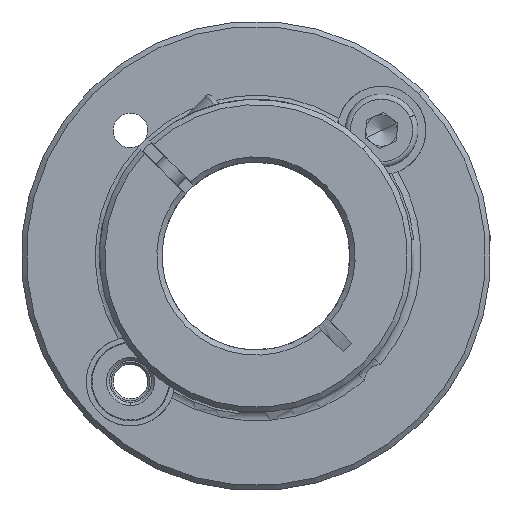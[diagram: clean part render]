
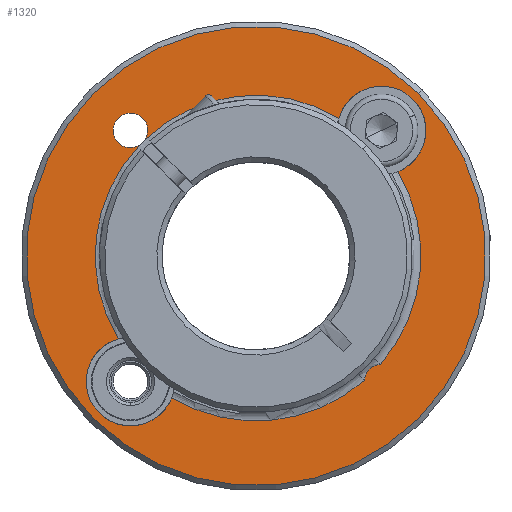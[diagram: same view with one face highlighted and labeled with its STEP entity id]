
A CAD part, front view. The second image highlights one B-rep face of the part: STEP entity #1320.
In plain terms, the highlighted planar face has unit normal (0, -1, 0).
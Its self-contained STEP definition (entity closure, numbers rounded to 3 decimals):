
#5 = DIRECTION ( 'NONE',  ( 0., -1., 0. ) ) ;
#353 = ORIENTED_EDGE ( 'NONE', *, *, #737, .T. ) ;
#355 = EDGE_CURVE ( 'NONE', #1453, #7740, #1187, .T. ) ;
#364 = CARTESIAN_POINT ( 'NONE',  ( 2.367, -8.743, 49.979 ) ) ;
#474 = CIRCLE ( 'NONE', #1438, 1.65 ) ;
#559 = VERTEX_POINT ( 'NONE', #3295 ) ;
#580 = CARTESIAN_POINT ( 'NONE',  ( -8.487, -8.743, 63.167 ) ) ;
#660 = CARTESIAN_POINT ( 'NONE',  ( 2.367, -8.743, 49.979 ) ) ;
#699 = DIRECTION ( 'NONE',  ( 0., 1., 0. ) ) ;
#725 = DIRECTION ( 'NONE',  ( 0.707, 0., 0.707 ) ) ;
#727 = CARTESIAN_POINT ( 'NONE',  ( 2.367, -8.743, 49.979 ) ) ;
#730 = EDGE_CURVE ( 'NONE', #6146, #5049, #474, .T. ) ;
#737 = EDGE_CURVE ( 'NONE', #6185, #7513, #4098, .T. ) ;
#992 = CARTESIAN_POINT ( 'NONE',  ( -10.82, -8.743, 60.833 ) ) ;
#1120 = VERTEX_POINT ( 'NONE', #1245 ) ;
#1170 = EDGE_CURVE ( 'NONE', #2869, #3720, #6113, .T. ) ;
#1187 = CIRCLE ( 'NONE', #1577, 15.4 ) ;
#1230 = VERTEX_POINT ( 'NONE', #5273 ) ;
#1245 = CARTESIAN_POINT ( 'NONE',  ( 17.924, -8.743, 65.536 ) ) ;
#1320 = ADVANCED_FACE ( 'NONE', ( #3520, #6712 ), #8405, .T. ) ;
#1438 = AXIS2_PLACEMENT_3D ( 'NONE', #8388, #8330, #3636 ) ;
#1453 = VERTEX_POINT ( 'NONE', #3227 ) ;
#1522 = CARTESIAN_POINT ( 'NONE',  ( -9.653, -8.743, 37.958 ) ) ;
#1577 = AXIS2_PLACEMENT_3D ( 'NONE', #7048, #7681, #6182 ) ;
#1750 = AXIS2_PLACEMENT_3D ( 'NONE', #9258, #7792, #7920 ) ;
#1971 = ORIENTED_EDGE ( 'NONE', *, *, #730, .T. ) ;
#1974 = CARTESIAN_POINT ( 'NONE',  ( 14.388, -8.743, 62. ) ) ;
#2049 = CIRCLE ( 'NONE', #7193, 1.65 ) ;
#2130 = CARTESIAN_POINT ( 'NONE',  ( 10.304, -8.743, 63.176 ) ) ;
#2213 = CARTESIAN_POINT ( 'NONE',  ( 14.388, -8.743, 62. ) ) ;
#2287 = DIRECTION ( 'NONE',  ( 0., 1., 0. ) ) ;
#2308 = ORIENTED_EDGE ( 'NONE', *, *, #8365, .T. ) ;
#2359 = AXIS2_PLACEMENT_3D ( 'NONE', #727, #699, #3744 ) ;
#2373 = EDGE_CURVE ( 'NONE', #7513, #2869, #2049, .T. ) ;
#2412 = VERTEX_POINT ( 'NONE', #4037 ) ;
#2476 = CARTESIAN_POINT ( 'NONE',  ( 14.285, -8.743, 39.605 ) ) ;
#2766 = AXIS2_PLACEMENT_3D ( 'NONE', #660, #3865, #5146 ) ;
#2869 = VERTEX_POINT ( 'NONE', #992 ) ;
#2886 = AXIS2_PLACEMENT_3D ( 'NONE', #2213, #2287, #4473 ) ;
#2977 = DIRECTION ( 'NONE',  ( 0., 1., 0. ) ) ;
#3026 = DIRECTION ( 'NONE',  ( 0.707, 0., 0.707 ) ) ;
#3079 = AXIS2_PLACEMENT_3D ( 'NONE', #9761, #2977, #7573 ) ;
#3138 = ORIENTED_EDGE ( 'NONE', *, *, #5320, .T. ) ;
#3155 = CARTESIAN_POINT ( 'NONE',  ( 2.367, -8.743, 49.979 ) ) ;
#3227 = CARTESIAN_POINT ( 'NONE',  ( -8.247, -8.743, 61.137 ) ) ;
#3295 = CARTESIAN_POINT ( 'NONE',  ( 17.393, -8.743, 65.005 ) ) ;
#3396 = DIRECTION ( 'NONE',  ( 0.707, 0., 0.707 ) ) ;
#3401 = EDGE_CURVE ( 'NONE', #3720, #1453, #5081, .T. ) ;
#3474 = DIRECTION ( 'NONE',  ( 0., -1., 0. ) ) ;
#3520 = FACE_BOUND ( 'NONE', #8345, .T. ) ;
#3525 = ORIENTED_EDGE ( 'NONE', *, *, #355, .T. ) ;
#3636 = DIRECTION ( 'NONE',  ( 0., 0., -1. ) ) ;
#3720 = VERTEX_POINT ( 'NONE', #580 ) ;
#3744 = DIRECTION ( 'NONE',  ( 0.707, 0., 0.707 ) ) ;
#3774 = CIRCLE ( 'NONE', #7613, 22. ) ;
#3793 = CIRCLE ( 'NONE', #8846, 22. ) ;
#3865 = DIRECTION ( 'NONE',  ( 0., 1., 0. ) ) ;
#4000 = ORIENTED_EDGE ( 'NONE', *, *, #6566, .T. ) ;
#4010 = DIRECTION ( 'NONE',  ( 0., 1., 0. ) ) ;
#4037 = CARTESIAN_POINT ( 'NONE',  ( -13.189, -8.743, 34.423 ) ) ;
#4096 = ORIENTED_EDGE ( 'NONE', *, *, #5627, .T. ) ;
#4098 = CIRCLE ( 'NONE', #2766, 15.4 ) ;
#4101 = EDGE_CURVE ( 'NONE', #2412, #1120, #3793, .T. ) ;
#4133 = CIRCLE ( 'NONE', #7124, 4.25 ) ;
#4197 = AXIS2_PLACEMENT_3D ( 'NONE', #6870, #6934, #8435 ) ;
#4393 = CARTESIAN_POINT ( 'NONE',  ( -12.659, -8.743, 34.953 ) ) ;
#4426 = CARTESIAN_POINT ( 'NONE',  ( 12.742, -8.743, 38.062 ) ) ;
#4473 = DIRECTION ( 'NONE',  ( 0.707, 0., 0.707 ) ) ;
#4566 = EDGE_CURVE ( 'NONE', #9379, #5071, #6501, .T. ) ;
#4606 = AXIS2_PLACEMENT_3D ( 'NONE', #1522, #9713, #3026 ) ;
#4760 = ORIENTED_EDGE ( 'NONE', *, *, #6458, .T. ) ;
#4772 = CARTESIAN_POINT ( 'NONE',  ( -10.83, -8.743, 42.042 ) ) ;
#4773 = CIRCLE ( 'NONE', #1750, 4.25 ) ;
#4853 = ORIENTED_EDGE ( 'NONE', *, *, #4566, .T. ) ;
#5049 = VERTEX_POINT ( 'NONE', #4426 ) ;
#5055 = CIRCLE ( 'NONE', #2359, 15.8 ) ;
#5071 = VERTEX_POINT ( 'NONE', #4393 ) ;
#5081 = CIRCLE ( 'NONE', #8274, 1.65 ) ;
#5146 = DIRECTION ( 'NONE',  ( 0.707, 0., 0.707 ) ) ;
#5273 = CARTESIAN_POINT ( 'NONE',  ( 15.952, -8.743, 58.048 ) ) ;
#5320 = EDGE_CURVE ( 'NONE', #1120, #2412, #3774, .T. ) ;
#5485 = ORIENTED_EDGE ( 'NONE', *, *, #2373, .T. ) ;
#5575 = DIRECTION ( 'NONE',  ( 0.707, 0., 0.707 ) ) ;
#5627 = EDGE_CURVE ( 'NONE', #5049, #9379, #5055, .T. ) ;
#6013 = CARTESIAN_POINT ( 'NONE',  ( 2.367, -8.743, 49.979 ) ) ;
#6113 = CIRCLE ( 'NONE', #3079, 1.65 ) ;
#6146 = VERTEX_POINT ( 'NONE', #2476 ) ;
#6182 = DIRECTION ( 'NONE',  ( 0.707, 0., 0.707 ) ) ;
#6185 = VERTEX_POINT ( 'NONE', #4772 ) ;
#6322 = ORIENTED_EDGE ( 'NONE', *, *, #8751, .T. ) ;
#6458 = EDGE_CURVE ( 'NONE', #7740, #559, #8364, .T. ) ;
#6477 = DIRECTION ( 'NONE',  ( 0., 1., 0. ) ) ;
#6501 = CIRCLE ( 'NONE', #4606, 4.25 ) ;
#6566 = EDGE_CURVE ( 'NONE', #1230, #6146, #9528, .T. ) ;
#6712 = FACE_OUTER_BOUND ( 'NONE', #7125, .T. ) ;
#6861 = DIRECTION ( 'NONE',  ( 0.707, 0., 0.707 ) ) ;
#6870 = CARTESIAN_POINT ( 'NONE',  ( 14.388, -8.743, 37.958 ) ) ;
#6934 = DIRECTION ( 'NONE',  ( 0., -1., 0. ) ) ;
#7004 = CARTESIAN_POINT ( 'NONE',  ( -9.653, -8.743, 62. ) ) ;
#7048 = CARTESIAN_POINT ( 'NONE',  ( 2.367, -8.743, 49.979 ) ) ;
#7088 = DIRECTION ( 'NONE',  ( 0., 1., 0. ) ) ;
#7124 = AXIS2_PLACEMENT_3D ( 'NONE', #1974, #6477, #3396 ) ;
#7125 = EDGE_LOOP ( 'NONE', ( #7867, #3138 ) ) ;
#7193 = AXIS2_PLACEMENT_3D ( 'NONE', #7820, #7088, #8633 ) ;
#7218 = DIRECTION ( 'NONE',  ( 0.707, 0., 0.707 ) ) ;
#7377 = ORIENTED_EDGE ( 'NONE', *, *, #1170, .T. ) ;
#7513 = VERTEX_POINT ( 'NONE', #8516 ) ;
#7573 = DIRECTION ( 'NONE',  ( 0.707, 0., 0.707 ) ) ;
#7613 = AXIS2_PLACEMENT_3D ( 'NONE', #364, #3474, #7218 ) ;
#7629 = ORIENTED_EDGE ( 'NONE', *, *, #3401, .T. ) ;
#7681 = DIRECTION ( 'NONE',  ( 0., 1., 0. ) ) ;
#7740 = VERTEX_POINT ( 'NONE', #2130 ) ;
#7792 = DIRECTION ( 'NONE',  ( 0., 1., 0. ) ) ;
#7820 = CARTESIAN_POINT ( 'NONE',  ( -9.653, -8.743, 62. ) ) ;
#7867 = ORIENTED_EDGE ( 'NONE', *, *, #4101, .T. ) ;
#7920 = DIRECTION ( 'NONE',  ( 0.707, 0., 0.707 ) ) ;
#8274 = AXIS2_PLACEMENT_3D ( 'NONE', #7004, #4010, #5575 ) ;
#8312 = AXIS2_PLACEMENT_3D ( 'NONE', #3155, #9183, #6861 ) ;
#8330 = DIRECTION ( 'NONE',  ( 0., -1., 0. ) ) ;
#8345 = EDGE_LOOP ( 'NONE', ( #1971, #4096, #4853, #2308, #353, #5485, #7377, #7629, #3525, #4760, #6322, #4000 ) ) ;
#8364 = CIRCLE ( 'NONE', #2886, 4.25 ) ;
#8365 = EDGE_CURVE ( 'NONE', #5071, #6185, #4773, .T. ) ;
#8388 = CARTESIAN_POINT ( 'NONE',  ( 14.388, -8.743, 37.958 ) ) ;
#8405 = PLANE ( 'NONE',  #4197 ) ;
#8435 = DIRECTION ( 'NONE',  ( -0.989, 0., -0.145 ) ) ;
#8516 = CARTESIAN_POINT ( 'NONE',  ( -8.79, -8.743, 60.594 ) ) ;
#8633 = DIRECTION ( 'NONE',  ( 0.707, 0., 0.707 ) ) ;
#8751 = EDGE_CURVE ( 'NONE', #559, #1230, #4133, .T. ) ;
#8846 = AXIS2_PLACEMENT_3D ( 'NONE', #6013, #5, #725 ) ;
#9183 = DIRECTION ( 'NONE',  ( 0., 1., 0. ) ) ;
#9258 = CARTESIAN_POINT ( 'NONE',  ( -9.653, -8.743, 37.958 ) ) ;
#9379 = VERTEX_POINT ( 'NONE', #9747 ) ;
#9528 = CIRCLE ( 'NONE', #8312, 15.8 ) ;
#9713 = DIRECTION ( 'NONE',  ( 0., 1., 0. ) ) ;
#9747 = CARTESIAN_POINT ( 'NONE',  ( -5.701, -8.743, 36.395 ) ) ;
#9761 = CARTESIAN_POINT ( 'NONE',  ( -9.653, -8.743, 62. ) ) ;
